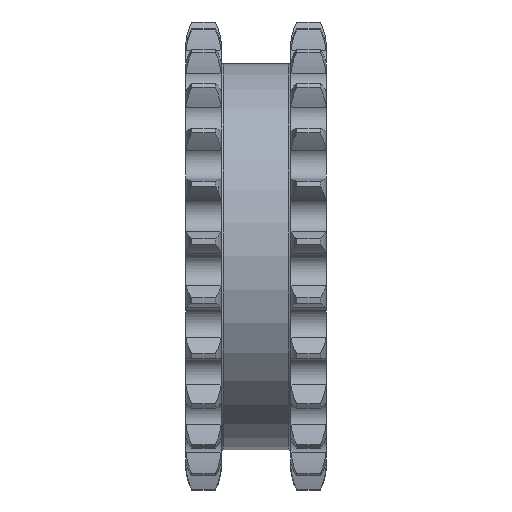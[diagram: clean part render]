
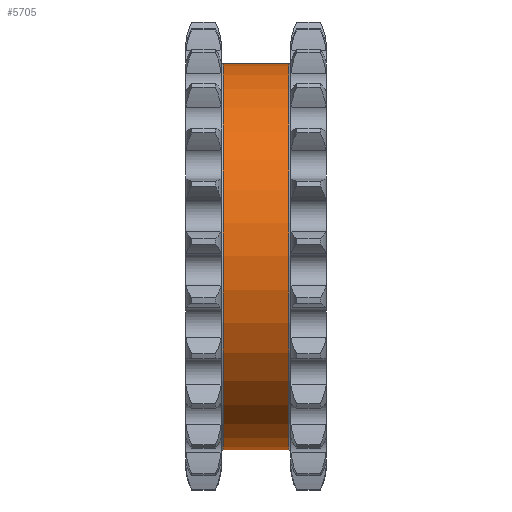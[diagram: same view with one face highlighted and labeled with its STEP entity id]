
A CAD part, top view. The second image highlights one B-rep face of the part: STEP entity #5705.
In plain terms, the highlighted cylindrical face has radius 88 mm (diameter 176 mm), a full revolution.
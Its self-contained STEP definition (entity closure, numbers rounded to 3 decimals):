
#20=FACE_BOUND('',#1055,.T.);
#432=CIRCLE('',#6316,88.);
#433=CIRCLE('',#6318,88.);
#741=FACE_OUTER_BOUND('',#1054,.T.);
#1054=EDGE_LOOP('',(#5075));
#1055=EDGE_LOOP('',(#5076));
#2473=VERTEX_POINT('',#11471);
#2474=VERTEX_POINT('',#11474);
#3378=EDGE_CURVE('',#2473,#2473,#432,.T.);
#3379=EDGE_CURVE('',#2474,#2474,#433,.T.);
#5075=ORIENTED_EDGE('',*,*,#3378,.T.);
#5076=ORIENTED_EDGE('',*,*,#3379,.F.);
#5402=CYLINDRICAL_SURFACE('',#6317,88.);
#5705=ADVANCED_FACE('',(#741,#20),#5402,.T.);
#6316=AXIS2_PLACEMENT_3D('',#11472,#7735,#7736);
#6317=AXIS2_PLACEMENT_3D('',#11473,#7737,#7738);
#6318=AXIS2_PLACEMENT_3D('',#11475,#7739,#7740);
#7735=DIRECTION('center_axis',(-1.,0.,0.));
#7736=DIRECTION('ref_axis',(0.,0.,1.));
#7737=DIRECTION('center_axis',(-1.,0.,0.));
#7738=DIRECTION('ref_axis',(0.,-1.,0.));
#7739=DIRECTION('center_axis',(-1.,0.,0.));
#7740=DIRECTION('ref_axis',(0.,0.,1.));
#11471=CARTESIAN_POINT('',(36.953,5.196,0.));
#11472=CARTESIAN_POINT('Origin',(36.953,93.196,0.));
#11473=CARTESIAN_POINT('Origin',(21.953,93.196,0.));
#11474=CARTESIAN_POINT('',(6.953,5.196,0.));
#11475=CARTESIAN_POINT('Origin',(6.953,93.196,0.));
